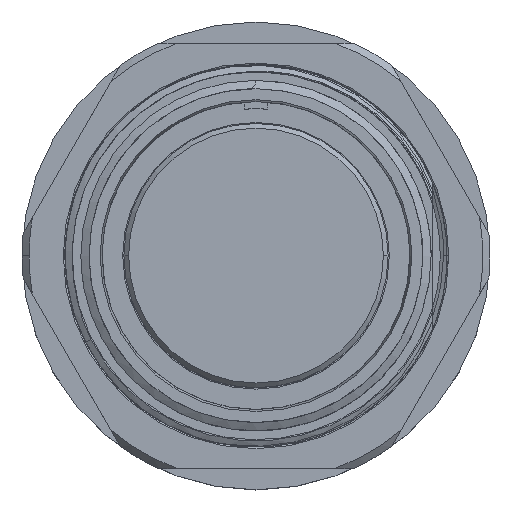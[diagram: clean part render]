
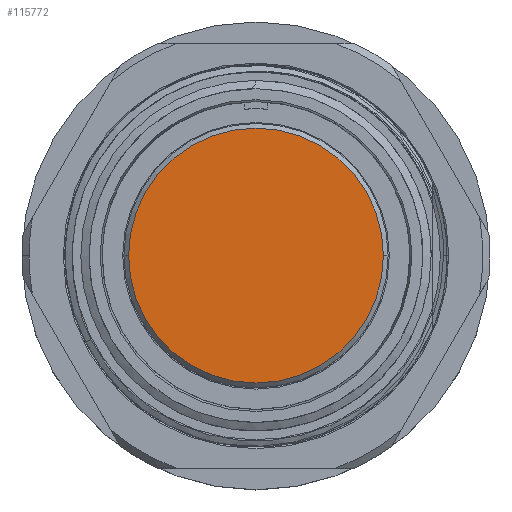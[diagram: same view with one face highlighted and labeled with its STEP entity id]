
A CAD part, top view. The second image highlights one B-rep face of the part: STEP entity #115772.
In plain terms, the highlighted planar face has unit normal (0, 0, 1).
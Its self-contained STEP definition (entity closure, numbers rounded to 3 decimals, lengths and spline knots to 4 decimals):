
#1628 = CIRCLE ( 'NONE', #99381, 0.542 ) ;
#3287 = AXIS2_PLACEMENT_3D ( 'NONE', #89890, #117992, #118622 ) ;
#10637 = VERTEX_POINT ( 'NONE', #95556 ) ;
#12837 = DIRECTION ( 'NONE',  ( 0., 0., 1. ) ) ;
#28440 = VERTEX_POINT ( 'NONE', #43504 ) ;
#37912 = FACE_OUTER_BOUND ( 'NONE', #76742, .T. ) ;
#41963 = CIRCLE ( 'NONE', #3287, 0.542 ) ;
#43504 = CARTESIAN_POINT ( 'NONE',  ( -0.542, 0., -0.018 ) ) ;
#52527 = AXIS2_PLACEMENT_3D ( 'NONE', #71647, #62082, #89504 ) ;
#52987 = DIRECTION ( 'NONE',  ( 1., 0., 0. ) ) ;
#62082 = DIRECTION ( 'NONE',  ( 0., 0., 1. ) ) ;
#71503 = CARTESIAN_POINT ( 'NONE',  ( 0., 0., -0.018 ) ) ;
#71647 = CARTESIAN_POINT ( 'NONE',  ( 0., 0., -0.018 ) ) ;
#76742 = EDGE_LOOP ( 'NONE', ( #118713, #106435 ) ) ;
#76806 = PLANE ( 'NONE',  #52527 ) ;
#81765 = EDGE_CURVE ( 'NONE', #10637, #28440, #41963, .T. ) ;
#89504 = DIRECTION ( 'NONE',  ( 1., 0., 0. ) ) ;
#89890 = CARTESIAN_POINT ( 'NONE',  ( 0., 0., -0.018 ) ) ;
#95556 = CARTESIAN_POINT ( 'NONE',  ( 0.542, 0., -0.018 ) ) ;
#99381 = AXIS2_PLACEMENT_3D ( 'NONE', #71503, #12837, #52987 ) ;
#106435 = ORIENTED_EDGE ( 'NONE', *, *, #81765, .T. ) ;
#115772 = ADVANCED_FACE ( 'NONE', ( #37912 ), #76806, .T. ) ;
#117992 = DIRECTION ( 'NONE',  ( 0., 0., 1. ) ) ;
#118622 = DIRECTION ( 'NONE',  ( 1., 0., 0. ) ) ;
#118713 = ORIENTED_EDGE ( 'NONE', *, *, #122674, .T. ) ;
#122674 = EDGE_CURVE ( 'NONE', #28440, #10637, #1628, .T. ) ;
